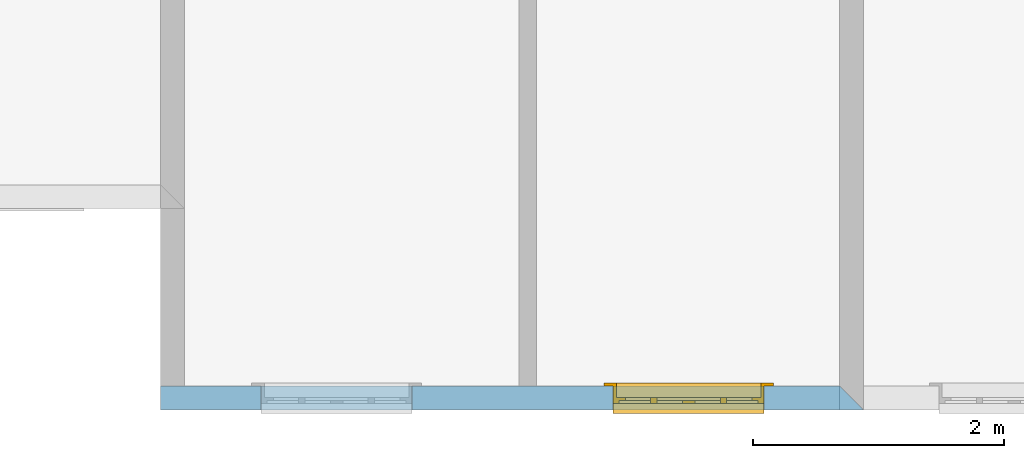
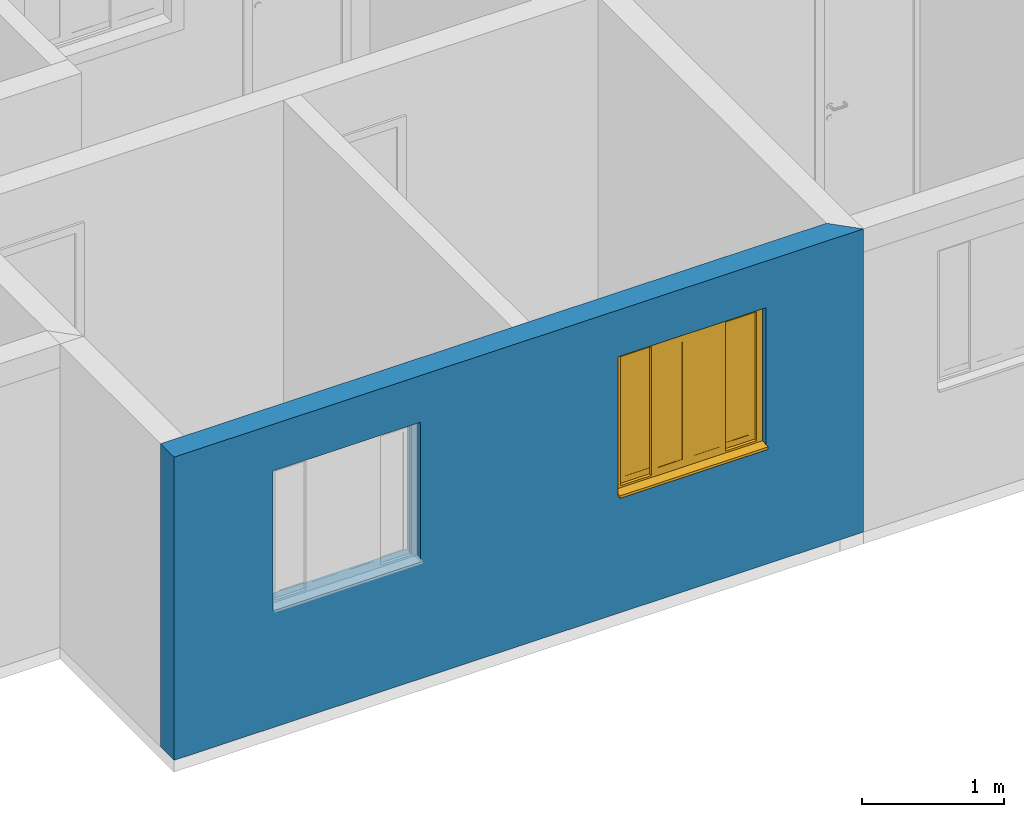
# One storey, part 5 of 47: 1 wall, 1 window, 2 openings.
"""IFC2X3 building model written with IfcOpenShell, lengths in millimetres."""

from ifc_helpers import new_model, entity, si_unit, converted_unit, derived_unit, money_unit, direction, frame, origin_with_axes, origin_2d_with_axis, place, context, subcontext, project, spatial, polyline, rectangle, outline, extrude, open_shell, faceted_brep, surface_model, source, transform, mapped, material, layer, layer_set, layer_usage, type_object, element, fill, save


model = new_model("IFC2X3")

# Units and contexts
model_context = context("Model", 3, precision=0.01, world=origin_with_axes(), true_north=direction((0.0, 1.0)))
body_context = subcontext(model_context, "Body", "Model", "MODEL_VIEW")
ifc_project = project(units=[si_unit("LENGTHUNIT", "METRE", prefix="MILLI"), si_unit("AREAUNIT", "SQUARE_METRE"), si_unit("VOLUMEUNIT", "CUBIC_METRE"), converted_unit("PLANEANGLEUNIT", "DEGREE", entity("IfcPlaneAngleMeasure", 0.0174532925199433), si_unit("PLANEANGLEUNIT", "RADIAN"), dimensions=[0, 0, 0, 0, 0, 0, 0]), money_unit("USD"), converted_unit("TIMEUNIT", "Year", entity("IfcTimeMeasure", 31557600.0), si_unit("TIMEUNIT", "SECOND"), dimensions=[0, 0, 1, 0, 0, 0, 0]), si_unit("MASSUNIT", "GRAM", prefix="KILO"), si_unit("THERMODYNAMICTEMPERATUREUNIT", "DEGREE_CELSIUS"), si_unit("LUMINOUSINTENSITYUNIT", "LUMEN"), si_unit("ENERGYUNIT", "JOULE", prefix="MEGA"), derived_unit("THERMALCONDUCTANCEUNIT", [(si_unit("POWERUNIT", "WATT"), 1), (si_unit("LENGTHUNIT", "METRE"), -1), (si_unit("THERMODYNAMICTEMPERATUREUNIT", "KELVIN"), -1)]), derived_unit("SPECIFICHEATCAPACITYUNIT", [(si_unit("ENERGYUNIT", "JOULE"), 1), (si_unit("MASSUNIT", "GRAM", prefix="KILO"), -1), (si_unit("THERMODYNAMICTEMPERATUREUNIT", "KELVIN"), -1)]), derived_unit("MASSDENSITYUNIT", [(si_unit("MASSUNIT", "GRAM", prefix="KILO"), 1), (si_unit("VOLUMEUNIT", "CUBIC_METRE"), -1)])], contexts=[model_context])

# Site, building, storey
site_placement = place(None, origin_with_axes())
site = spatial("IfcSite", under=ifc_project, at=site_placement, Name="Local", CompositionType="ELEMENT")
building_placement = place(site_placement, origin_with_axes())
building = spatial("IfcBuilding", under=site, at=building_placement, Name="Construção", CompositionType="ELEMENT")
storey_placement = place(building_placement, origin_with_axes())
storey = spatial("IfcBuildingStorey", under=building, at=storey_placement, Name="Pavimento Tipo", CompositionType="ELEMENT", Elevation=0.0)

# Wall, openings, window
ifc_material = material(Name="Concreto - Estrutural")
ifc_layer = layer(ifc_material, 190.0, ventilated="UNKNOWN")
ifc_layer_set = layer_set([ifc_layer], Name="Concreto - Estrutural 190")
ifc_layer_usage = layer_usage(ifc_layer_set, "AXIS2", "NEGATIVE", 190.0)
wall_type = type_object("IfcWallType", Name="Concreto - Estrutural 190", PredefinedType="NOTDEFINED")
wall_placement = place(storey_placement, frame((-4547.433002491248, -1603.018582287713, 0.0), z_axis=(0.0, 0.0, 1.0), x_axis=(1.0, 0.0, 0.0)))
wall = element("IfcWallStandardCase", 1, at=wall_placement, inside=storey, type_object=wall_type, material=ifc_layer_usage, Name="Apartamento 3 - Parede-004", context=body_context, shape_type="SweptSolid", body=[
    extrude(outline(polyline([(0.0, 0.0), (5589.999999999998, 0.0), (5399.999999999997, 189.9999999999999), (0.0, 189.9999999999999), (0.0, 0.0)])), origin_with_axes(), (0.0, 0.0, 1.0), 2600.0),
])
opening_1_placement = place(wall_placement, frame((4199.999999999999, 0.0, 1000.0), z_axis=(0.0, 0.0, 1.0), x_axis=(1.0, 0.0, 0.0)))
opening_1 = element("IfcOpeningElement", 2, at=opening_1_placement, cuts=wall, Name="Apartamento 3 - J06", context=body_context, shape_type="SweptSolid", body=[
    extrude(rectangle(XDim=1200.0, YDim=1200.0, at=origin_2d_with_axis()), frame((0.0, 50.00000000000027, 600.0000000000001), z_axis=(0.0, -1.0, 0.0), x_axis=(-1.0, 0.0, 0.0)), (0.0, 0.0, -1.0), 330.0),
    extrude(rectangle(XDim=1200.0, YDim=1200.0, at=origin_2d_with_axis()), frame((0.0, 50.00000000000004, 600.0000000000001), z_axis=(0.0, 1.0, 0.0), x_axis=(-1.0, 0.0, 0.0)), (0.0, 0.0, -1.0), 240.0),
    extrude(rectangle(XDim=1350.0, YDim=1350.0, at=origin_2d_with_axis()), frame((0.0, 190.0000000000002, 599.9999999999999), z_axis=(0.0, -1.0, 0.0), x_axis=(-1.0, 0.0, 0.0)), (0.0, 0.0, -1.0), 240.0),
])
opening_2_placement = place(wall_placement, frame((1400.0, 0.0, 1000.0), z_axis=(0.0, 0.0, 1.0), x_axis=(1.0, 0.0, 0.0)))
element("IfcOpeningElement", 3, at=opening_2_placement, cuts=wall, Name="Apartamento 3 - J05", context=body_context, shape_type="SweptSolid", body=[
    extrude(rectangle(XDim=1200.0, YDim=1200.0, at=origin_2d_with_axis()), frame((0.0, 50.00000000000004, 600.0000000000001), z_axis=(0.0, 1.0, 0.0), x_axis=(1.0, 0.0, 0.0)), (0.0, 0.0, 1.0), 330.0),
    extrude(rectangle(XDim=1200.0, YDim=1200.0, at=origin_2d_with_axis()), frame((0.0, 50.00000000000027, 600.0000000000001), z_axis=(0.0, -1.0, 0.0), x_axis=(1.0, 0.0, 0.0)), (0.0, 0.0, 1.0), 240.0),
    extrude(rectangle(XDim=1350.0, YDim=1350.0, at=origin_2d_with_axis()), frame((0.0, 189.9999999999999, 599.9999999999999), z_axis=(0.0, 1.0, 0.0), x_axis=(1.0, 0.0, 0.0)), (0.0, 0.0, 1.0), 240.0),
])
window_style = type_object("IfcWindowStyle", Name="Janela de Correr 4-Folhas 27", ConstructionType="NOTDEFINED", OperationType="USERDEFINED", ParameterTakesPrecedence=False, Sizeable=False)
shared_shape = source(origin_with_axes(), body_context, "Body", "SurfaceModel", [
    faceted_brep([(-600.0, 0.0, 5.0), (-600.0, 0.0, 30.0), (-600.0, 50.0, 27.37961103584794), (-600.0, 50.0, 5.000000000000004), (600.0, 0.0, 5.0), (600.0, 0.0, 30.0), (600.0, 50.0, 27.37961103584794), (600.0, 80.0, 25.8073776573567), (-600.0, 80.0, 25.8073776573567), (-600.0, 80.0, 5.000000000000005), (600.0, 80.0, 5.000000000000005), (600.0, 50.0, 5.000000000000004)], [[[0, 1, 2, 3]], [[4, 5, 1, 0]], [[1, 5, 6, 7, 8, 2]], [[3, 2, 8, 9]], [[0, 3, 9, 10, 11, 4]], [[11, 6, 5, 4]], [[10, 7, 6, 11]], [[9, 8, 7, 10]]]),
    faceted_brep([(-600.0, 0.0, 0.0), (-600.0, 0.0, 5.0), (-600.0, 50.0, 5.0), (-600.0, 50.0, 0.0), (600.0, 0.0, 0.0), (600.0, 0.0, 5.0), (600.0, 50.0, 5.0), (600.0, 50.0, 0.0)], [[[0, 1, 2, 3]], [[4, 5, 1, 0]], [[1, 5, 6, 2]], [[3, 2, 6, 7]], [[0, 3, 7, 4]], [[7, 6, 5, 4]]]),
    faceted_brep([(-600.0, -50.0, 0.0), (600.0, -50.0, 0.0), (600.0, -140.0, 0.0), (-600.0, -140.0, 0.0), (-600.0, -50.00000000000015, 1200.0), (600.0, -50.00000000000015, 1200.0), (-575.0, -50.0, 24.99999999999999), (575.0, -50.0, 24.99999999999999), (575.0, -50.00000000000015, 1175.0), (-575.0, -50.00000000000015, 1175.0), (600.0, -140.0000000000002, 1200.0), (-600.0, -140.0000000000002, 1200.0), (-575.0, -140.0, 24.99999999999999), (-575.0, -140.0000000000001, 1175.0), (575.0, -140.0000000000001, 1175.0), (575.0, -140.0, 24.99999999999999)], [[[0, 1, 2, 3]], [[0, 4, 5, 1], [6, 7, 8, 9]], [[1, 5, 10, 2]], [[3, 2, 10, 11], [12, 13, 14, 15]], [[4, 0, 3, 11]], [[5, 4, 11, 10]], [[7, 6, 12, 15]], [[8, 7, 15, 14]], [[9, 8, 14, 13]], [[6, 9, 13, 12]]]),
    faceted_brep([(-674.9999999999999, -165.0, -75.00000000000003), (-674.9999999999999, -140.0, -75.00000000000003), (-575.0, -140.0, 24.99999999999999), (-575.0, -165.0, 24.99999999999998), (-674.9999999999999, -165.0000000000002, 1275.0), (-674.9999999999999, -140.0000000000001, 1275.0), (-575.0, -140.0000000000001, 1175.0), (-575.0, -165.0000000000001, 1175.0)], [[[0, 1, 2, 3]], [[4, 5, 1, 0]], [[1, 5, 6, 2]], [[3, 2, 6, 7]], [[0, 3, 7, 4]], [[7, 6, 5, 4]]]),
    faceted_brep([(674.9999999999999, -165.0000000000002, 1275.0), (674.9999999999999, -140.0000000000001, 1275.0), (575.0, -140.0000000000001, 1175.0), (575.0, -165.0000000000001, 1175.0), (674.9999999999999, -165.0, -75.00000000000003), (674.9999999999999, -140.0, -75.00000000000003), (575.0, -140.0, 24.99999999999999), (575.0, -165.0, 24.99999999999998)], [[[0, 1, 2, 3]], [[4, 5, 1, 0]], [[1, 5, 6, 2]], [[3, 2, 6, 7]], [[0, 3, 7, 4]], [[7, 6, 5, 4]]]),
    faceted_brep([(674.9999999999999, -165.0, -75.00000000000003), (674.9999999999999, -140.0, -75.00000000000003), (575.0, -140.0, 24.99999999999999), (575.0, -165.0, 24.99999999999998), (-674.9999999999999, -165.0, -75.00000000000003), (-674.9999999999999, -140.0, -75.00000000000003), (-575.0, -140.0, 24.99999999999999), (-575.0, -165.0, 24.99999999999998)], [[[0, 1, 2, 3]], [[4, 5, 1, 0]], [[1, 5, 6, 2]], [[3, 2, 6, 7]], [[0, 3, 7, 4]], [[7, 6, 5, 4]]]),
    faceted_brep([(-674.9999999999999, -165.0000000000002, 1275.0), (-674.9999999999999, -140.0000000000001, 1275.0), (-575.0, -140.0000000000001, 1175.0), (-575.0, -165.0000000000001, 1175.0), (674.9999999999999, -165.0000000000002, 1275.0), (674.9999999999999, -140.0000000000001, 1275.0), (575.0, -140.0000000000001, 1175.0), (575.0, -165.0000000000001, 1175.0)], [[[0, 1, 2, 3]], [[4, 5, 1, 0]], [[1, 5, 6, 2]], [[3, 2, 6, 7]], [[0, 3, 7, 4]], [[7, 6, 5, 4]]]),
    faceted_brep([(-552.9999999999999, -50.00000000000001, 47.0), (-552.9999999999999, 0.0, 47.00000000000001), (-552.9999999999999, 0.0, 1153.0), (-552.9999999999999, -50.00000000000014, 1153.0), (-600.0, -50.00000000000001, 47.0), (-600.0, 0.0, 47.00000000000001), (-600.0, 0.0, 1153.0), (-600.0, -50.00000000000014, 1153.0)], [[[0, 1, 2, 3]], [[4, 5, 1, 0]], [[1, 5, 6, 2]], [[3, 2, 6, 7]], [[0, 3, 7, 4]], [[7, 6, 5, 4]]]),
    faceted_brep([(600.0, -50.00000000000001, 47.0), (600.0, 0.0, 47.00000000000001), (600.0, 0.0, 1153.0), (600.0, -50.00000000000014, 1153.0), (552.9999999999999, -50.00000000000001, 47.0), (552.9999999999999, 0.0, 47.00000000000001), (552.9999999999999, 0.0, 1153.0), (552.9999999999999, -50.00000000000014, 1153.0)], [[[0, 1, 2, 3]], [[4, 5, 1, 0]], [[1, 5, 6, 2]], [[3, 2, 6, 7]], [[0, 3, 7, 4]], [[7, 6, 5, 4]]]),
    faceted_brep([(600.0, -50.00000000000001, 47.0), (600.0, 0.0, 47.00000000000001), (552.9999999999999, 0.0, 47.00000000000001), (552.9999999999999, -50.00000000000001, 47.0), (600.0, -50.0, 0.0), (600.0, 0.0, 0.0), (-600.0, 0.0, 0.0), (-600.0, 0.0, 47.00000000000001), (-552.9999999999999, 0.0, 47.00000000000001), (-552.9999999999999, -50.00000000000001, 47.0), (-600.0, -50.00000000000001, 47.0), (-600.0, -50.0, 0.0)], [[[0, 1, 2, 3]], [[4, 5, 1, 0]], [[1, 5, 6, 7, 8, 2]], [[3, 2, 8, 9]], [[0, 3, 9, 10, 11, 4]], [[11, 6, 5, 4]], [[10, 7, 6, 11]], [[9, 8, 7, 10]]]),
    faceted_brep([(600.0, -50.00000000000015, 1200.0), (600.0, 0.0, 1200.0), (-600.0, 0.0, 1200.0), (-600.0, -50.00000000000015, 1200.0), (600.0, -50.00000000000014, 1153.0), (600.0, 0.0, 1153.0), (552.9999999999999, 0.0, 1153.0), (276.5, 0.0, 1153.0), (0.0, 0.0, 1153.0), (-276.4999999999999, 0.0, 1153.0), (-552.9999999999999, 0.0, 1153.0), (-600.0, 0.0, 1153.0), (-600.0, -50.00000000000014, 1153.0), (-552.9999999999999, -50.00000000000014, 1153.0), (-276.4999999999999, -50.00000000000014, 1153.0), (0.0, -50.00000000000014, 1153.0), (276.5, -50.00000000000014, 1153.0), (552.9999999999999, -50.00000000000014, 1153.0)], [[[0, 1, 2, 3]], [[4, 5, 1, 0]], [[1, 5, 6, 7, 8, 9, 10, 11, 2]], [[3, 2, 11, 12]], [[0, 3, 12, 13, 14, 15, 16, 17, 4]], [[17, 6, 5, 4]], [[16, 7, 6, 17]], [[15, 8, 7, 16]], [[14, 9, 8, 15]], [[13, 10, 9, 14]], [[12, 11, 10, 13]]]),
    faceted_brep([(-502.9999999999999, -50.00000000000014, 1103.0), (-502.9999999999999, -25.00000000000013, 1103.0), (-552.9999999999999, -25.00000000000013, 1103.0), (-552.9999999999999, -50.00000000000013, 1103.0), (-502.9999999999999, -50.00000000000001, 97.0), (-502.9999999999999, -25.00000000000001, 97.0), (-552.9999999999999, -25.0, 97.0), (-552.9999999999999, -50.00000000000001, 97.0)], [[[0, 1, 2, 3]], [[4, 5, 1, 0]], [[1, 5, 6, 2]], [[3, 2, 6, 7]], [[0, 3, 7, 4]], [[7, 6, 5, 4]]]),
    faceted_brep([(-301.4999999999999, -50.00000000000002, 97.0), (-301.4999999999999, -25.00000000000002, 97.0), (-251.4999999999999, -25.00000000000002, 97.0), (-251.4999999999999, -50.00000000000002, 97.0), (-301.4999999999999, -50.00000000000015, 1103.0), (-301.4999999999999, -25.00000000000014, 1103.0), (-251.4999999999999, -25.00000000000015, 1103.0), (-251.4999999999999, -50.00000000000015, 1103.0)], [[[0, 1, 2, 3]], [[4, 5, 1, 0]], [[1, 5, 6, 2]], [[3, 2, 6, 7]], [[0, 3, 7, 4]], [[7, 6, 5, 4]]]),
    faceted_brep([(-251.4999999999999, -50.00000000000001, 47.0), (-251.4999999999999, -25.00000000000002, 47.0), (-251.4999999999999, -25.00000000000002, 97.0), (-251.4999999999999, -50.00000000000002, 97.0), (-552.9999999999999, -50.0, 47.0), (-552.9999999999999, -25.0, 47.0), (-552.9999999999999, -25.0, 97.0), (-502.9999999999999, -25.00000000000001, 97.0), (-301.4999999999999, -25.00000000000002, 97.0), (-301.4999999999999, -50.00000000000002, 97.0), (-502.9999999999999, -50.00000000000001, 97.0), (-552.9999999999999, -50.00000000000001, 97.0)], [[[0, 1, 2, 3]], [[4, 5, 1, 0]], [[1, 5, 6, 7, 8, 2]], [[3, 2, 8, 9]], [[0, 3, 9, 10, 11, 4]], [[11, 6, 5, 4]], [[10, 7, 6, 11]], [[9, 8, 7, 10]]]),
    faceted_brep([(-552.9999999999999, -50.00000000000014, 1153.0), (-552.9999999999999, -25.00000000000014, 1153.0), (-552.9999999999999, -25.00000000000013, 1103.0), (-552.9999999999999, -50.00000000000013, 1103.0), (-251.4999999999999, -50.00000000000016, 1153.0), (-251.4999999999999, -25.00000000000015, 1153.0), (-251.4999999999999, -25.00000000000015, 1103.0), (-301.4999999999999, -25.00000000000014, 1103.0), (-502.9999999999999, -25.00000000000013, 1103.0), (-502.9999999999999, -50.00000000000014, 1103.0), (-301.4999999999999, -50.00000000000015, 1103.0), (-251.4999999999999, -50.00000000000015, 1103.0)], [[[0, 1, 2, 3]], [[4, 5, 1, 0]], [[1, 5, 6, 7, 8, 2]], [[3, 2, 8, 9]], [[0, 3, 9, 10, 11, 4]], [[11, 6, 5, 4]], [[10, 7, 6, 11]], [[9, 8, 7, 10]]]),
    surface_model("IfcShellBasedSurfaceModel", [(-502.9999999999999, -47.50000000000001, 97.0), (-301.4999999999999, -47.50000000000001, 97.0), (-301.4999999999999, -47.50000000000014, 1103.0), (-502.9999999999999, -47.50000000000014, 1103.0)], [open_shell([[[0, 1, 2, 3]]])]),
    surface_model("IfcShellBasedSurfaceModel", [(-502.9999999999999, -27.50000000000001, 97.0), (-502.9999999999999, -27.50000000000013, 1103.0), (-301.4999999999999, -27.50000000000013, 1103.0), (-301.4999999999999, -27.50000000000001, 97.0)], [open_shell([[[0, 1, 2, 3]]])]),
    faceted_brep([(-251.4999999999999, -25.00000000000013, 1103.0), (-251.4999999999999, 0.0, 1103.0), (-301.4999999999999, 0.0, 1103.0), (-301.4999999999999, -25.00000000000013, 1103.0), (-251.4999999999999, -25.00000000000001, 97.0), (-251.4999999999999, 0.0, 97.0), (-301.4999999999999, 0.0, 97.0), (-301.4999999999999, -25.0, 97.0)], [[[0, 1, 2, 3]], [[4, 5, 1, 0]], [[1, 5, 6, 2]], [[3, 2, 6, 7]], [[0, 3, 7, 4]], [[7, 6, 5, 4]]]),
    faceted_brep([(-49.99999999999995, -25.00000000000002, 97.0), (-49.99999999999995, 0.0, 97.0), (0.0, 0.0, 97.0), (0.0, -25.00000000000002, 97.0), (-49.99999999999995, -25.00000000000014, 1103.0), (-49.99999999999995, 0.0, 1103.0), (0.0, 0.0, 1103.0), (0.0, -25.00000000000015, 1103.0)], [[[0, 1, 2, 3]], [[4, 5, 1, 0]], [[1, 5, 6, 2]], [[3, 2, 6, 7]], [[0, 3, 7, 4]], [[7, 6, 5, 4]]]),
    faceted_brep([(0.0, -25.00000000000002, 47.0), (0.0, 0.0, 47.0), (0.0, 0.0, 97.0), (0.0, -25.00000000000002, 97.0), (-301.4999999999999, -25.0, 47.0), (-301.4999999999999, 0.0, 47.0), (-301.4999999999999, 0.0, 97.0), (-251.4999999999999, 0.0, 97.0), (-49.99999999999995, 0.0, 97.0), (-49.99999999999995, -25.00000000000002, 97.0), (-251.4999999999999, -25.00000000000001, 97.0), (-301.4999999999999, -25.0, 97.0)], [[[0, 1, 2, 3]], [[4, 5, 1, 0]], [[1, 5, 6, 7, 8, 2]], [[3, 2, 8, 9]], [[0, 3, 9, 10, 11, 4]], [[11, 6, 5, 4]], [[10, 7, 6, 11]], [[9, 8, 7, 10]]]),
    faceted_brep([(-301.4999999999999, -25.00000000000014, 1153.0), (-301.4999999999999, 0.0, 1153.0), (-301.4999999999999, 0.0, 1103.0), (-301.4999999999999, -25.00000000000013, 1103.0), (0.0, -25.00000000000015, 1153.0), (0.0, 0.0, 1153.0), (0.0, 0.0, 1103.0), (-49.99999999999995, 0.0, 1103.0), (-251.4999999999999, 0.0, 1103.0), (-251.4999999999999, -25.00000000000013, 1103.0), (-49.99999999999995, -25.00000000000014, 1103.0), (0.0, -25.00000000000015, 1103.0)], [[[0, 1, 2, 3]], [[4, 5, 1, 0]], [[1, 5, 6, 7, 8, 2]], [[3, 2, 8, 9]], [[0, 3, 9, 10, 11, 4]], [[11, 6, 5, 4]], [[10, 7, 6, 11]], [[9, 8, 7, 10]]]),
    surface_model("IfcShellBasedSurfaceModel", [(-251.4999999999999, -22.50000000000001, 97.0), (-49.99999999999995, -22.50000000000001, 97.0), (-49.99999999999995, -22.50000000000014, 1103.0), (-251.4999999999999, -22.50000000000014, 1103.0)], [open_shell([[[0, 1, 2, 3]]])]),
    surface_model("IfcShellBasedSurfaceModel", [(-251.4999999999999, -2.500000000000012, 97.0), (-251.4999999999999, -2.500000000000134, 1103.0), (-49.99999999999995, -2.500000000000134, 1103.0), (-49.99999999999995, -2.500000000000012, 97.0)], [open_shell([[[0, 1, 2, 3]]])]),
    faceted_brep([(50.00000000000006, -25.00000000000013, 1103.0), (50.00000000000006, 0.0, 1103.0), (0.0, 0.0, 1103.0), (0.0, -25.00000000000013, 1103.0), (50.00000000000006, -25.00000000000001, 97.0), (50.00000000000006, 0.0, 97.0), (0.0, 0.0, 97.0), (0.0, -25.0, 97.0)], [[[0, 1, 2, 3]], [[4, 5, 1, 0]], [[1, 5, 6, 2]], [[3, 2, 6, 7]], [[0, 3, 7, 4]], [[7, 6, 5, 4]]]),
    faceted_brep([(251.5000000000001, -25.00000000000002, 97.0), (251.5000000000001, 0.0, 97.0), (301.5000000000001, 0.0, 97.0), (301.5000000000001, -25.00000000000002, 97.0), (251.5000000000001, -25.00000000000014, 1103.0), (251.5000000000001, 0.0, 1103.0), (301.5000000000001, 0.0, 1103.0), (301.5000000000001, -25.00000000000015, 1103.0)], [[[0, 1, 2, 3]], [[4, 5, 1, 0]], [[1, 5, 6, 2]], [[3, 2, 6, 7]], [[0, 3, 7, 4]], [[7, 6, 5, 4]]]),
    faceted_brep([(301.5000000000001, -25.00000000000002, 47.0), (301.5000000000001, 0.0, 47.0), (301.5000000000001, 0.0, 97.0), (301.5000000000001, -25.00000000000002, 97.0), (0.0, -25.0, 47.0), (0.0, 0.0, 47.0), (0.0, 0.0, 97.0), (50.00000000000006, 0.0, 97.0), (251.5000000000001, 0.0, 97.0), (251.5000000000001, -25.00000000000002, 97.0), (50.00000000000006, -25.00000000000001, 97.0), (0.0, -25.0, 97.0)], [[[0, 1, 2, 3]], [[4, 5, 1, 0]], [[1, 5, 6, 7, 8, 2]], [[3, 2, 8, 9]], [[0, 3, 9, 10, 11, 4]], [[11, 6, 5, 4]], [[10, 7, 6, 11]], [[9, 8, 7, 10]]]),
    faceted_brep([(0.0, -25.00000000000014, 1153.0), (0.0, 0.0, 1153.0), (0.0, 0.0, 1103.0), (0.0, -25.00000000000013, 1103.0), (301.5000000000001, -25.00000000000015, 1153.0), (301.5000000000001, 0.0, 1153.0), (301.5000000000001, 0.0, 1103.0), (251.5000000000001, 0.0, 1103.0), (50.00000000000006, 0.0, 1103.0), (50.00000000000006, -25.00000000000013, 1103.0), (251.5000000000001, -25.00000000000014, 1103.0), (301.5000000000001, -25.00000000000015, 1103.0)], [[[0, 1, 2, 3]], [[4, 5, 1, 0]], [[1, 5, 6, 7, 8, 2]], [[3, 2, 8, 9]], [[0, 3, 9, 10, 11, 4]], [[11, 6, 5, 4]], [[10, 7, 6, 11]], [[9, 8, 7, 10]]]),
    surface_model("IfcShellBasedSurfaceModel", [(50.00000000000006, -22.50000000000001, 97.0), (251.5000000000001, -22.50000000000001, 97.0), (251.5000000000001, -22.50000000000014, 1103.0), (50.00000000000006, -22.50000000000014, 1103.0)], [open_shell([[[0, 1, 2, 3]]])]),
    surface_model("IfcShellBasedSurfaceModel", [(50.00000000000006, -2.500000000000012, 97.0), (50.00000000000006, -2.500000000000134, 1103.0), (251.5000000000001, -2.500000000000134, 1103.0), (251.5000000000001, -2.500000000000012, 97.0)], [open_shell([[[0, 1, 2, 3]]])]),
    faceted_brep([(301.5000000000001, -50.00000000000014, 1103.0), (301.5000000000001, -25.00000000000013, 1103.0), (251.5000000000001, -25.00000000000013, 1103.0), (251.5000000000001, -50.00000000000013, 1103.0), (301.5000000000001, -50.00000000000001, 97.0), (301.5000000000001, -25.00000000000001, 97.0), (251.5000000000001, -25.0, 97.0), (251.5000000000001, -50.00000000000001, 97.0)], [[[0, 1, 2, 3]], [[4, 5, 1, 0]], [[1, 5, 6, 2]], [[3, 2, 6, 7]], [[0, 3, 7, 4]], [[7, 6, 5, 4]]]),
    faceted_brep([(503.0, -50.00000000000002, 97.0), (503.0, -25.00000000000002, 97.0), (553.0, -25.00000000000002, 97.0), (553.0, -50.00000000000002, 97.0), (503.0, -50.00000000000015, 1103.0), (503.0, -25.00000000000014, 1103.0), (553.0, -25.00000000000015, 1103.0), (553.0, -50.00000000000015, 1103.0)], [[[0, 1, 2, 3]], [[4, 5, 1, 0]], [[1, 5, 6, 2]], [[3, 2, 6, 7]], [[0, 3, 7, 4]], [[7, 6, 5, 4]]]),
    faceted_brep([(553.0, -50.00000000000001, 47.0), (553.0, -25.00000000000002, 47.0), (553.0, -25.00000000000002, 97.0), (553.0, -50.00000000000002, 97.0), (251.5000000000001, -50.0, 47.0), (251.5000000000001, -25.0, 47.0), (251.5000000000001, -25.0, 97.0), (301.5000000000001, -25.00000000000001, 97.0), (503.0, -25.00000000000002, 97.0), (503.0, -50.00000000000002, 97.0), (301.5000000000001, -50.00000000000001, 97.0), (251.5000000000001, -50.00000000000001, 97.0)], [[[0, 1, 2, 3]], [[4, 5, 1, 0]], [[1, 5, 6, 7, 8, 2]], [[3, 2, 8, 9]], [[0, 3, 9, 10, 11, 4]], [[11, 6, 5, 4]], [[10, 7, 6, 11]], [[9, 8, 7, 10]]]),
    faceted_brep([(251.5000000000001, -50.00000000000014, 1153.0), (251.5000000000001, -25.00000000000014, 1153.0), (251.5000000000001, -25.00000000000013, 1103.0), (251.5000000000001, -50.00000000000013, 1103.0), (553.0, -50.00000000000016, 1153.0), (553.0, -25.00000000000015, 1153.0), (553.0, -25.00000000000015, 1103.0), (503.0, -25.00000000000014, 1103.0), (301.5000000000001, -25.00000000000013, 1103.0), (301.5000000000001, -50.00000000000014, 1103.0), (503.0, -50.00000000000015, 1103.0), (553.0, -50.00000000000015, 1103.0)], [[[0, 1, 2, 3]], [[4, 5, 1, 0]], [[1, 5, 6, 7, 8, 2]], [[3, 2, 8, 9]], [[0, 3, 9, 10, 11, 4]], [[11, 6, 5, 4]], [[10, 7, 6, 11]], [[9, 8, 7, 10]]]),
    surface_model("IfcShellBasedSurfaceModel", [(301.5, -47.50000000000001, 97.0), (503.0, -47.50000000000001, 97.0), (503.0, -47.50000000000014, 1103.0), (301.5, -47.50000000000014, 1103.0)], [open_shell([[[0, 1, 2, 3]]])]),
    surface_model("IfcShellBasedSurfaceModel", [(301.5, -27.50000000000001, 97.0), (301.5, -27.50000000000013, 1103.0), (503.0, -27.50000000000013, 1103.0), (503.0, -27.50000000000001, 97.0)], [open_shell([[[0, 1, 2, 3]]])]),
])
window_placement = place(opening_1_placement, frame((600.0, 0.0, 0.0), z_axis=(0.0, 0.0, 1.0), x_axis=(-1.0, 0.0, 0.0)))
window = element("IfcWindow", 4, at=window_placement, inside=storey, type_object=window_style, Name="Apartamento 3 - J06", ObjectType="WINDOW", OverallHeight=1200.0, OverallWidth=1200.0, context=body_context, shape_type="MappedRepresentation", body=[
    mapped(shared_shape, transform((600.0, -50.00000000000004, 0.0))),
])
fill(opening_1, window)

save(model, "model.ifc")
